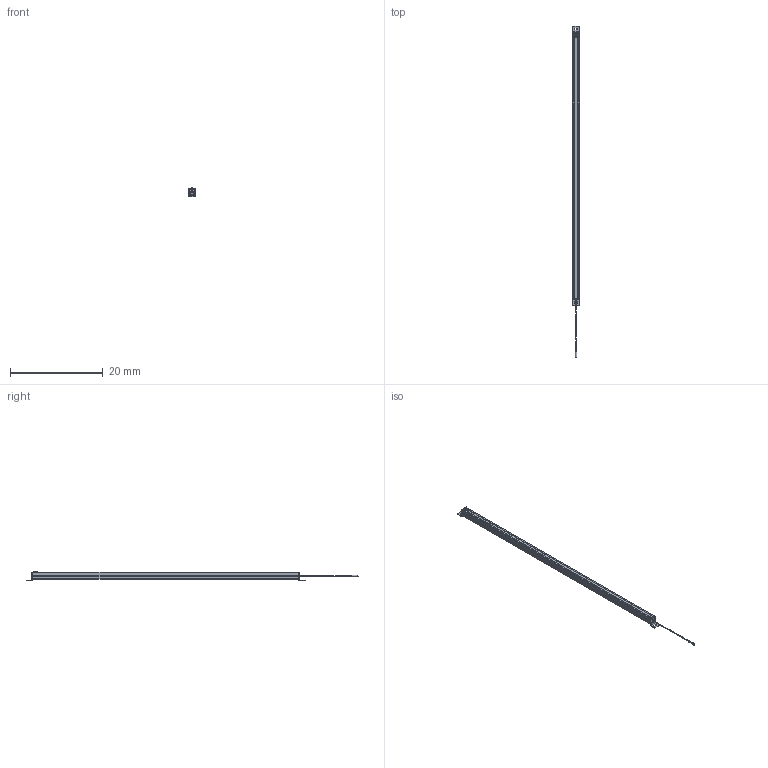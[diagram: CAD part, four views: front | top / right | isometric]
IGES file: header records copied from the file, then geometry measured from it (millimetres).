
Start section:  Autodesk DirectConnect version 7.0.27.0 ---- IGES version 5.3
Global section: file name: C:\ACADFILES\SS_PYLONS\CUSTOMER_FILES\SS-56-PYLON_3D_L.iges; native system: Autodesk DirectConnect 7.0.27.0; preprocessor: 7.0.27.0; author: ENGINEERMAIN; organization: Unknown; date: 20150810.125628; units: millimetre
Bounding box: 1.46 x 71.52 x 2.11 mm (x, y, z)
Surface area: 853.8 mm2 (no closed solid volume)
Topology: 0 solids, 0 shells, 475 faces, 2604 edges, 2623 vertices
Faces by surface type: bspline 475
